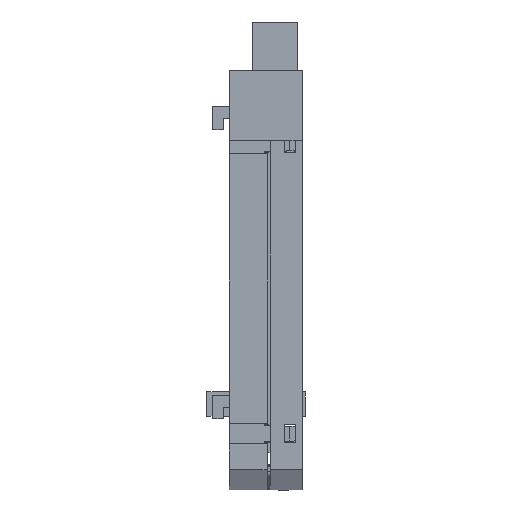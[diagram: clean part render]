
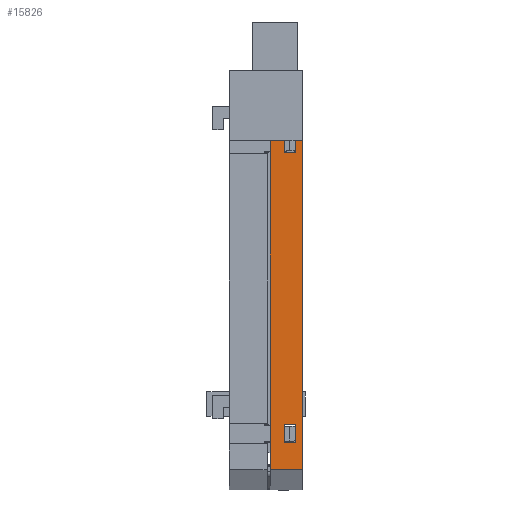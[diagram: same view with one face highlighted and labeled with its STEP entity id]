
A CAD part, front view. The second image highlights one B-rep face of the part: STEP entity #15826.
In plain terms, the highlighted planar face has unit normal (0, -1, 0).
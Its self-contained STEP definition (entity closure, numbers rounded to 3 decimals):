
#159 = ORIENTED_EDGE ( 'NONE', *, *, #22142, .T. ) ;
#479 = CARTESIAN_POINT ( 'NONE',  ( 4.4, 0., -57.545 ) ) ;
#547 = VERTEX_POINT ( 'NONE', #479 ) ;
#801 = DIRECTION ( 'NONE',  ( 1., 0., 0. ) ) ;
#1050 = VECTOR ( 'NONE', #13614, 1000. ) ;
#1258 = LINE ( 'NONE', #16163, #22347 ) ;
#1290 = VERTEX_POINT ( 'NONE', #3457 ) ;
#1350 = VECTOR ( 'NONE', #6877, 1000. ) ;
#2403 = LINE ( 'NONE', #24746, #29700 ) ;
#2836 = VECTOR ( 'NONE', #801, 1000. ) ;
#3457 = CARTESIAN_POINT ( 'NONE',  ( 4.4, 0., -7.845 ) ) ;
#3462 = DIRECTION ( 'NONE',  ( 0., 0., -1. ) ) ;
#3737 = DIRECTION ( 'NONE',  ( -1., 0., 0. ) ) ;
#3753 = EDGE_CURVE ( 'NONE', #547, #15714, #1258, .T. ) ;
#3834 = VERTEX_POINT ( 'NONE', #5090 ) ;
#4747 = EDGE_CURVE ( 'NONE', #29410, #1290, #9889, .T. ) ;
#5065 = EDGE_CURVE ( 'NONE', #32647, #29712, #2403, .T. ) ;
#5090 = CARTESIAN_POINT ( 'NONE',  ( 2.4, 0., -57.545 ) ) ;
#5612 = FACE_OUTER_BOUND ( 'NONE', #13879, .T. ) ;
#6224 = CARTESIAN_POINT ( 'NONE',  ( 5.5, 0., 0. ) ) ;
#6408 = VERTEX_POINT ( 'NONE', #25089 ) ;
#6813 = ORIENTED_EDGE ( 'NONE', *, *, #5065, .T. ) ;
#6877 = DIRECTION ( 'NONE',  ( -1., 0., 0. ) ) ;
#6966 = VECTOR ( 'NONE', #34126, 1000. ) ;
#7096 = ORIENTED_EDGE ( 'NONE', *, *, #18577, .T. ) ;
#7116 = CARTESIAN_POINT ( 'NONE',  ( 0., 0., -65.25 ) ) ;
#7294 = LINE ( 'NONE', #22097, #14366 ) ;
#7357 = VERTEX_POINT ( 'NONE', #6224 ) ;
#7473 = ORIENTED_EDGE ( 'NONE', *, *, #27444, .T. ) ;
#7601 = CARTESIAN_POINT ( 'NONE',  ( 4.4, 0., -10.945 ) ) ;
#8208 = DIRECTION ( 'NONE',  ( 0., 0., 1. ) ) ;
#8607 = EDGE_LOOP ( 'NONE', ( #22825, #33481, #20054, #6813 ) ) ;
#9361 = CARTESIAN_POINT ( 'NONE',  ( 2.4, 0., -7.845 ) ) ;
#9858 = EDGE_CURVE ( 'NONE', #1290, #32647, #20999, .T. ) ;
#9889 = LINE ( 'NONE', #32436, #2836 ) ;
#10480 = VECTOR ( 'NONE', #12915, 1000. ) ;
#12243 = EDGE_CURVE ( 'NONE', #7357, #29750, #7294, .T. ) ;
#12270 = DIRECTION ( 'NONE',  ( 0., 1., 0. ) ) ;
#12320 = VERTEX_POINT ( 'NONE', #14536 ) ;
#12497 = ORIENTED_EDGE ( 'NONE', *, *, #3753, .T. ) ;
#12915 = DIRECTION ( 'NONE',  ( 1., 0., 0. ) ) ;
#13614 = DIRECTION ( 'NONE',  ( -1., 0., 0. ) ) ;
#13727 = CARTESIAN_POINT ( 'NONE',  ( 5.5, 0., -65.25 ) ) ;
#13879 = EDGE_LOOP ( 'NONE', ( #159, #33331, #18257, #28725 ) ) ;
#14366 = VECTOR ( 'NONE', #24763, 1000. ) ;
#14536 = CARTESIAN_POINT ( 'NONE',  ( 0., 0., 0. ) ) ;
#14809 = PLANE ( 'NONE',  #28354 ) ;
#15031 = CARTESIAN_POINT ( 'NONE',  ( 2.4, 0., -60.645 ) ) ;
#15164 = LINE ( 'NONE', #13727, #1050 ) ;
#15444 = CARTESIAN_POINT ( 'NONE',  ( 2.4, 0., -10.945 ) ) ;
#15714 = VERTEX_POINT ( 'NONE', #19179 ) ;
#15826 = ADVANCED_FACE ( 'NONE', ( #26666, #19633, #5612 ), #14809, .F. ) ;
#15897 = VERTEX_POINT ( 'NONE', #7116 ) ;
#16163 = CARTESIAN_POINT ( 'NONE',  ( 4.4, 0., -60.645 ) ) ;
#17447 = CARTESIAN_POINT ( 'NONE',  ( 2.4, 0., -10.945 ) ) ;
#17697 = LINE ( 'NONE', #17447, #30929 ) ;
#18257 = ORIENTED_EDGE ( 'NONE', *, *, #12243, .F. ) ;
#18577 = EDGE_CURVE ( 'NONE', #15714, #6408, #28853, .T. ) ;
#19179 = CARTESIAN_POINT ( 'NONE',  ( 4.4, 0., -60.645 ) ) ;
#19633 = FACE_BOUND ( 'NONE', #26635, .T. ) ;
#20054 = ORIENTED_EDGE ( 'NONE', *, *, #9858, .T. ) ;
#20288 = LINE ( 'NONE', #32415, #26492 ) ;
#20999 = LINE ( 'NONE', #7601, #6966 ) ;
#21320 = EDGE_CURVE ( 'NONE', #7357, #12320, #21610, .T. ) ;
#21471 = EDGE_CURVE ( 'NONE', #3834, #547, #24497, .T. ) ;
#21610 = LINE ( 'NONE', #25315, #1350 ) ;
#22097 = CARTESIAN_POINT ( 'NONE',  ( 5.5, 0., 0. ) ) ;
#22142 = EDGE_CURVE ( 'NONE', #12320, #15897, #20288, .T. ) ;
#22347 = VECTOR ( 'NONE', #25740, 1000. ) ;
#22664 = VECTOR ( 'NONE', #33446, 1000. ) ;
#22756 = DIRECTION ( 'NONE',  ( 0., 0., 1. ) ) ;
#22825 = ORIENTED_EDGE ( 'NONE', *, *, #30189, .T. ) ;
#23343 = CARTESIAN_POINT ( 'NONE',  ( 2.4, 0., -57.545 ) ) ;
#24497 = LINE ( 'NONE', #23343, #10480 ) ;
#24746 = CARTESIAN_POINT ( 'NONE',  ( 2.4, 0., -10.945 ) ) ;
#24763 = DIRECTION ( 'NONE',  ( 0., 0., -1. ) ) ;
#25089 = CARTESIAN_POINT ( 'NONE',  ( 2.4, 0., -60.645 ) ) ;
#25315 = CARTESIAN_POINT ( 'NONE',  ( 5.5, 0., 0. ) ) ;
#25353 = CARTESIAN_POINT ( 'NONE',  ( 5.5, 0., 0. ) ) ;
#25622 = EDGE_CURVE ( 'NONE', #29750, #15897, #15164, .T. ) ;
#25740 = DIRECTION ( 'NONE',  ( 0., 0., -1. ) ) ;
#26492 = VECTOR ( 'NONE', #3462, 1000. ) ;
#26515 = LINE ( 'NONE', #26670, #32680 ) ;
#26635 = EDGE_LOOP ( 'NONE', ( #7096, #7473, #31881, #12497 ) ) ;
#26666 = FACE_BOUND ( 'NONE', #8607, .T. ) ;
#26670 = CARTESIAN_POINT ( 'NONE',  ( 2.4, 0., -60.645 ) ) ;
#27444 = EDGE_CURVE ( 'NONE', #6408, #3834, #26515, .T. ) ;
#28354 = AXIS2_PLACEMENT_3D ( 'NONE', #25353, #12270, #30656 ) ;
#28675 = CARTESIAN_POINT ( 'NONE',  ( 5.5, 0., -65.25 ) ) ;
#28725 = ORIENTED_EDGE ( 'NONE', *, *, #21320, .T. ) ;
#28853 = LINE ( 'NONE', #15031, #22664 ) ;
#29280 = CARTESIAN_POINT ( 'NONE',  ( 4.4, 0., -10.945 ) ) ;
#29410 = VERTEX_POINT ( 'NONE', #9361 ) ;
#29700 = VECTOR ( 'NONE', #3737, 1000. ) ;
#29712 = VERTEX_POINT ( 'NONE', #15444 ) ;
#29750 = VERTEX_POINT ( 'NONE', #28675 ) ;
#30189 = EDGE_CURVE ( 'NONE', #29712, #29410, #17697, .T. ) ;
#30656 = DIRECTION ( 'NONE',  ( 0., 0., 1. ) ) ;
#30929 = VECTOR ( 'NONE', #22756, 1000. ) ;
#31881 = ORIENTED_EDGE ( 'NONE', *, *, #21471, .T. ) ;
#32415 = CARTESIAN_POINT ( 'NONE',  ( 0., 0., 0. ) ) ;
#32436 = CARTESIAN_POINT ( 'NONE',  ( 2.4, 0., -7.845 ) ) ;
#32647 = VERTEX_POINT ( 'NONE', #29280 ) ;
#32680 = VECTOR ( 'NONE', #8208, 1000. ) ;
#33331 = ORIENTED_EDGE ( 'NONE', *, *, #25622, .F. ) ;
#33446 = DIRECTION ( 'NONE',  ( -1., 0., 0. ) ) ;
#33481 = ORIENTED_EDGE ( 'NONE', *, *, #4747, .T. ) ;
#34126 = DIRECTION ( 'NONE',  ( 0., 0., -1. ) ) ;
